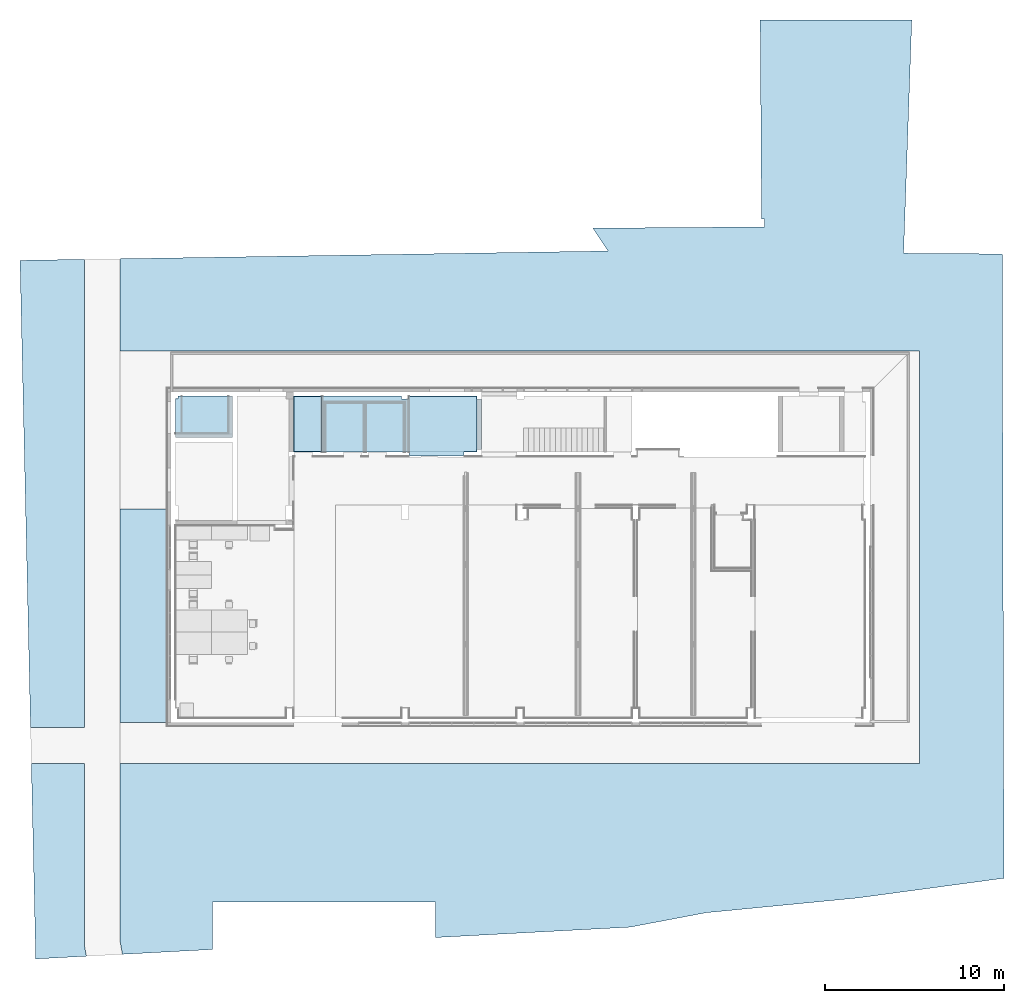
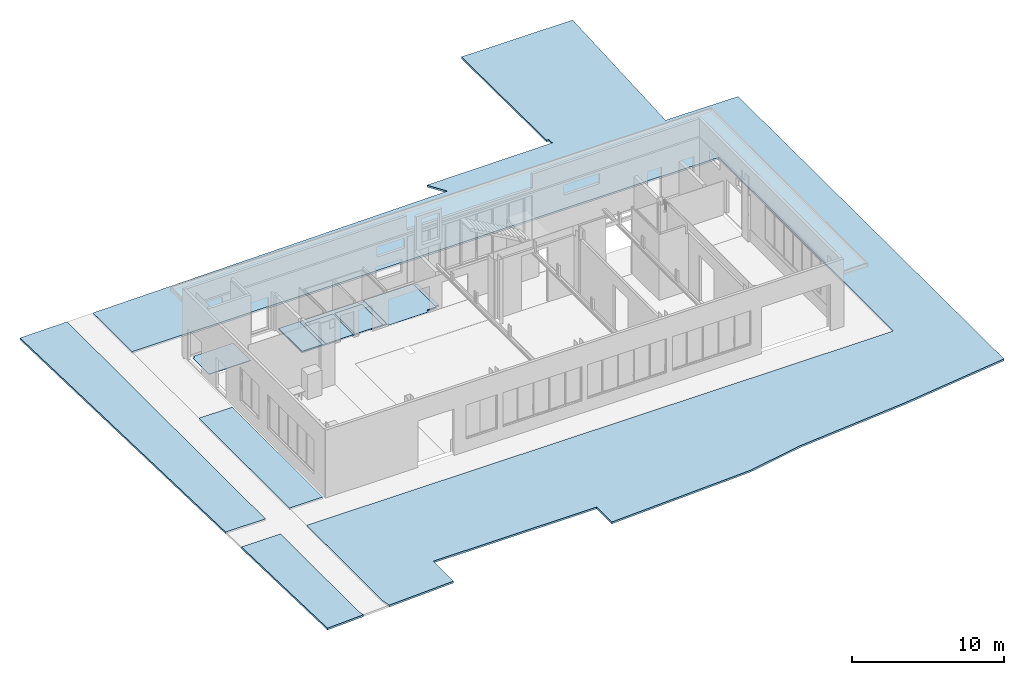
# One storey, part 8 of 27: 10 slabs.
"""IFC2X3 building model written with IfcOpenShell, lengths in centimetres."""

from ifc_helpers import new_model, entity, si_unit, converted_unit, derived_unit, direction, frame, frame_2d, origin, place, context, subcontext, project, spatial, polyline, rectangle, outline, extrude, material, layer, layer_set, layer_usage, type_object, element, save


model = new_model("IFC2X3")

# Units and contexts
model_context = context("Model", 3, precision=0.001, world=origin(), true_north=direction((6.12303176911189e-17, 1.0)))
body_context = subcontext(model_context, "Body", "Model", "MODEL_VIEW")
ifc_project = project(units=[si_unit("LENGTHUNIT", "METRE", prefix="CENTI"), si_unit("AREAUNIT", "SQUARE_METRE"), si_unit("VOLUMEUNIT", "CUBIC_METRE"), converted_unit("PLANEANGLEUNIT", "DEGREE", entity("IfcRatioMeasure", 0.0174532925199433), si_unit("PLANEANGLEUNIT", "RADIAN"), dimensions=[0, 0, 0, 0, 0, 0, 0]), si_unit("MASSUNIT", "GRAM", prefix="KILO"), derived_unit("MASSDENSITYUNIT", [(si_unit("MASSUNIT", "GRAM", prefix="KILO"), 1), (si_unit("LENGTHUNIT", "METRE"), -3)]), derived_unit("MOMENTOFINERTIAUNIT", [(si_unit("LENGTHUNIT", "METRE"), 4)]), si_unit("TIMEUNIT", "SECOND"), si_unit("FREQUENCYUNIT", "HERTZ"), si_unit("THERMODYNAMICTEMPERATUREUNIT", "DEGREE_CELSIUS"), derived_unit("THERMALTRANSMITTANCEUNIT", [(si_unit("MASSUNIT", "GRAM", prefix="KILO"), 1), (si_unit("THERMODYNAMICTEMPERATUREUNIT", "KELVIN"), -1), (si_unit("TIMEUNIT", "SECOND"), -3)]), derived_unit("VOLUMETRICFLOWRATEUNIT", [(si_unit("LENGTHUNIT", "METRE"), 3), (si_unit("TIMEUNIT", "SECOND"), -1)]), si_unit("ELECTRICCURRENTUNIT", "AMPERE"), si_unit("ELECTRICVOLTAGEUNIT", "VOLT"), si_unit("POWERUNIT", "WATT"), si_unit("FORCEUNIT", "NEWTON", prefix="KILO"), si_unit("ILLUMINANCEUNIT", "LUX"), si_unit("LUMINOUSFLUXUNIT", "LUMEN"), si_unit("LUMINOUSINTENSITYUNIT", "CANDELA"), derived_unit("USERDEFINED", [(si_unit("MASSUNIT", "GRAM", prefix="KILO"), -1), (si_unit("LENGTHUNIT", "METRE"), -2), (si_unit("TIMEUNIT", "SECOND"), 3), (si_unit("LUMINOUSFLUXUNIT", "LUMEN"), 1)]), derived_unit("LINEARVELOCITYUNIT", [(si_unit("LENGTHUNIT", "METRE"), 1), (si_unit("TIMEUNIT", "SECOND"), -1)]), si_unit("PRESSUREUNIT", "PASCAL"), derived_unit("USERDEFINED", [(si_unit("LENGTHUNIT", "METRE"), -2), (si_unit("MASSUNIT", "GRAM", prefix="KILO"), 1), (si_unit("TIMEUNIT", "SECOND"), -2)]), derived_unit("LINEARFORCEUNIT", [(si_unit("MASSUNIT", "GRAM", prefix="KILO"), 1), (si_unit("LENGTHUNIT", "METRE"), 1), (si_unit("TIMEUNIT", "SECOND"), -2), (si_unit("LENGTHUNIT", "METRE"), -1)]), derived_unit("PLANARFORCEUNIT", [(si_unit("MASSUNIT", "GRAM", prefix="KILO"), 1), (si_unit("LENGTHUNIT", "METRE"), 1), (si_unit("TIMEUNIT", "SECOND"), -2), (si_unit("LENGTHUNIT", "METRE"), -2)])], contexts=[model_context])

# Site, building, storey
site_placement = place(None, origin())
site = spatial("IfcSite", under=ifc_project, at=site_placement, Name="Default", CompositionType="ELEMENT")
building_placement = place(site_placement, origin())
building = spatial("IfcBuilding", under=site, at=building_placement, CompositionType="ELEMENT")
storey_placement = place(building_placement, origin())
storey = spatial("IfcBuildingStorey", under=building, at=storey_placement, Name="Poziom 0 A +/-0,00", CompositionType="ELEMENT", Elevation=3.38570427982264e-11)

# Slabs
ifc_material_1 = material(Name="Wylewka")
ifc_layer_1 = layer(ifc_material_1, 10.0)
ifc_layer_set_1 = layer_set([ifc_layer_1], Name="Strop:Wylewka betonowa gr. 10cm")
ifc_layer_usage_1 = layer_usage(ifc_layer_set_1, "AXIS3", "POSITIVE", 0.0)
slab_type_1 = type_object("IfcSlabType", Name="Strop:Wylewka betonowa gr. 10cm", PredefinedType="FLOOR", material=ifc_layer_set_1)
slab_1_placement = place(storey_placement, origin())
element("IfcSlab", 1, at=slab_1_placement, inside=storey, type_object=slab_type_1, material=ifc_layer_usage_1, Name="Strop:Wylewka betonowa gr. 10cm", ObjectType="Strop:Wylewka betonowa gr. 10cm", PredefinedType="FLOOR", context=body_context, shape_type="SweptSolid", body=[
    extrude(outline(polyline([(-205.499993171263, -726.250092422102), (106.500006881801, -726.250092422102), (106.500006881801, -121.2499926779), (91.5000068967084, -121.2499926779), (91.5000068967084, -81.2499747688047), (106.499986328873, -81.2499747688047), (106.499986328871, 301.250019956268), (91.5000068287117, 301.250019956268), (91.5000068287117, 326.250019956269), (-190.500013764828, 326.250019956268), (-190.500013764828, 301.250019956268), (-205.499993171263, 301.250019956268), (-205.499993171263, -726.250092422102)])), frame((-1523.0150141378, 1973.6274451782, 0.0), z_axis=(0.0, 0.0, -1.0), x_axis=(0.0, 1.0, 0.0)), (0.0, 0.0, 1.0), 10.0),
])
ifc_material_2 = material(Name="_Metal krata pomostowa")
ifc_layer_2 = layer(ifc_material_2, 3.0)
ifc_layer_set_2 = layer_set([ifc_layer_2], Name="Strop:Podłoga techniczna z płyt pomostowych 3 cm")
ifc_layer_usage_2 = layer_usage(ifc_layer_set_2, "AXIS3", "POSITIVE", 0.0)
slab_type_2 = type_object("IfcSlabType", Name="Strop:Podłoga techniczna z płyt pomostowych 3 cm", PredefinedType="FLOOR", material=ifc_layer_set_2)
slab_2_placement = place(storey_placement, origin())
element("IfcSlab", 2, at=slab_2_placement, inside=storey, type_object=slab_type_2, material=ifc_layer_usage_2, Name="Strop:Podłoga techniczna z płyt pomostowych 3 cm", ObjectType="Strop:Podłoga techniczna z płyt pomostowych 3 cm", PredefinedType="FLOOR", context=body_context, shape_type="SweptSolid", body=[
    extrude(outline(polyline([(-148.399993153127, -111.166664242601), (66.7000068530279, -111.166664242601), (66.700006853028, -96.1666678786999), (81.6999863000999, -96.1666678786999), (81.6999863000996, 207.3333321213), (-148.399993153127, 207.3333321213), (-148.399993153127, -111.166664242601)])), frame((-2798.09844101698, 1998.42744520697, 0.0), z_axis=(0.0, 0.0, -1.0), x_axis=(0.0, 1.0, 0.0)), (0.0, 0.0, 1.0), 3.0),
])
ifc_material_3 = material(Name="Gres jasny")
ifc_layer_3 = layer(ifc_material_3, 2.0)
ifc_layer_set_3 = layer_set([ifc_layer_3], Name="Strop:Gres na kleju gr. 2cm techniczne")
ifc_layer_usage_3 = layer_usage(ifc_layer_set_3, "AXIS3", "POSITIVE", 0.0)
slab_type_3 = type_object("IfcSlabType", Name="Strop:Gres na kleju gr. 2cm techniczne", PredefinedType="FLOOR")
slab_3_placement = place(storey_placement, frame((-2246.76511972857, 1768.12743150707, 0.0)))
element("IfcSlab", 3, at=slab_3_placement, inside=storey, type_object=slab_type_3, material=ifc_layer_usage_3, Name="Strop:Gres na kleju gr. 2cm techniczne", ObjectType="Strop:Gres na kleju gr. 2cm techniczne", PredefinedType="FLOOR", context=body_context, shape_type="SweptSolid", body=[
    extrude(rectangle(XDim=307.000000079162, YDim=154.999991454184, at=frame_2d((1521.25001302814, -12.4999890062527), x_axis=(0.0, -1.0))), frame((1598.75000875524, 168.500009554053, 2.0), z_axis=(0.0, 0.0, -1.0), x_axis=(-1.0, 0.0, 0.0)), (0.0, 0.0, 1.0), 2.0),
])
ifc_material_4 = material(Name="Gres")
ifc_layer_4 = layer(ifc_material_4, 2.0)
ifc_layer_set_4 = layer_set([ifc_layer_4], Name="Strop:Gres na kleju gr. 2cm")
ifc_layer_usage_4 = layer_usage(ifc_layer_set_4, "AXIS3", "POSITIVE", 0.0)
slab_type_4 = type_object("IfcSlabType", Name="Strop:Gres na kleju gr. 2cm", PredefinedType="FLOOR", material=ifc_layer_set_4)
slab_4_placement = place(storey_placement, origin())
element("IfcSlab", 4, at=slab_4_placement, inside=storey, type_object=slab_type_4, material=ifc_layer_usage_4, Name="Strop:Gres na kleju gr. 2cm", ObjectType="Strop:Gres na kleju gr. 2cm", PredefinedType="FLOOR", context=body_context, shape_type="SweptSolid", body=[
    extrude(rectangle(XDim=273.500000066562, YDim=210.000002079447, at=frame_2d((9.9475983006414e-14, -1.06581410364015e-13), x_axis=(1.0, 0.0))), frame((-1736.76511003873, 1904.87745204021, 2.0), z_axis=(0.0, 0.0, -1.0), x_axis=(0.0, 1.0, 0.0)), (0.0, 0.0, 1.0), 2.0),
])
ifc_material_5 = material(Name="Wykladzina winylowa (w plytkach) na kleju")
ifc_layer_5 = layer(ifc_material_5, 2.0)
ifc_layer_set_5 = layer_set([ifc_layer_5], Name="Strop:Wykladzina winylowa (w plytkach) na kleju gr.2cm 2")
ifc_layer_usage_5 = layer_usage(ifc_layer_set_5, "AXIS3", "POSITIVE", 0.0)
slab_type_5 = type_object("IfcSlabType", Name="Strop:Wykladzina winylowa (w plytkach) na kleju gr.2cm 2", PredefinedType="FLOOR", material=ifc_layer_set_5)
slab_5_placement = place(storey_placement, origin())
element("IfcSlab", 5, at=slab_5_placement, inside=storey, type_object=slab_type_5, material=ifc_layer_usage_5, Name="Strop:Wykladzina winylowa (w plytkach) na kleju gr.2cm 2", ObjectType="Strop:Wykladzina winylowa (w plytkach) na kleju gr.2cm 2", PredefinedType="FLOOR", context=body_context, shape_type="SweptSolid", body=[
    extrude(outline(polyline([(-119.0, -228.333257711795), (213.0, -228.333257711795), (213.0, 149.166628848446), (-94.0, 149.166628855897), (-94.0, 79.1666288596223), (-119.0, 79.1666288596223), (-119.0, -228.333257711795)])), frame((-1373.43173119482, 1864.62745203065, 2.0), z_axis=(0.0, 0.0, -1.0), x_axis=(0.0, 1.0, 0.0)), (0.0, 0.0, 1.0), 2.0),
])
ifc_material_6 = material(Name="Trawa")
ifc_layer_6 = layer(ifc_material_6, 15.0)
ifc_layer_set_6 = layer_set([ifc_layer_6], Name="Strop:Trawa")
ifc_layer_usage_6 = layer_usage(ifc_layer_set_6, "AXIS3", "POSITIVE", 0.0)
slab_type_6 = type_object("IfcSlabType", Name="Strop:Trawa", PredefinedType="FLOOR", material=ifc_layer_set_6)
slab_6_placement = place(storey_placement, origin())
element("IfcSlab", 6, at=slab_6_placement, inside=storey, type_object=slab_type_6, material=ifc_layer_usage_6, Name="Strop:Trawa", ObjectType="Strop:Trawa", PredefinedType="FLOOR", context=body_context, shape_type="SweptSolid", body=[
    extrude(outline(polyline([(-1309.44439955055, -166.293837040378), (1304.85974334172, -166.293837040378), (1311.67032436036, 136.879564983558), (-1307.08566815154, 195.708109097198), (-1309.44439955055, -166.293837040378)])), frame((-3582.65949955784, 1534.89280886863, -17.0), z_axis=(0.0, 0.0, 1.0), x_axis=(0.022458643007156, -0.999747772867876, 0.0)), (0.0, 0.0, 1.0), 15.0),
    extrude(outline(polyline([(-209.242330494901, -1936.96055900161), (2519.14378256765, -1936.96055900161), (2527.36432239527, -1421.44265302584), (-1944.06721108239, -1350.14041228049), (-1907.28407588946, 956.565083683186), (2564.14745740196, 885.262842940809), (2580.10977268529, 1886.27486106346), (2568.68353480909, 1953.52916668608), (2063.99964302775, 1934.61004500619), (2059.75801774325, 1668.61367726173), (813.499385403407, 1688.48673857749), (816.678493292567, 1887.85162690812), (-272.765532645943, 1847.01155966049), (-699.809101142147, 1773.08974310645), (-1548.83002044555, 1704.0355712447), (-2368.65513377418, 1606.76342020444), (-2414.54477421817, -1885.35494516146), (-1862.9912325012, -1898.04309701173), (-1929.55225420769, -3201.70510493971), (-1081.45043154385, -3215.22908711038), (-1071.28843774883, -2102.63949199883), (-1088.7595984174, -2103.26495102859), (-1088.22334000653, -2057.81705021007), (-127.110629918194, -2066.05693593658), (-209.242330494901, -1936.96055900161)])), frame((-668.05835538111, 952.662167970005, -17.0), z_axis=(0.0, 0.0, 1.0), x_axis=(-0.999872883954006, -0.015944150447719, 0.0)), (0.0, 0.0, 1.0), 15.0),
    extrude(rectangle(XDim=1194.99995276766, YDim=254.999999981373, at=frame_2d((1.13686837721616e-13, 4.33431068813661e-13), x_axis=(1.0, 0.0))), frame((-3090.26510473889, 852.627475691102, -17.0), z_axis=(0.0, 0.0, 1.0), x_axis=(0.0, 1.0, 0.0)), (0.0, 0.0, 1.0), 15.0),
    extrude(outline(polyline([(-453.891269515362, 39.8328687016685), (-416.813699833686, -241.973746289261), (663.319134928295, -65.6965594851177), (608.588801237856, 228.004568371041), (-401.202966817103, 39.8328687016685), (-453.891269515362, 39.8328687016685)])), frame((-3529.01265557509, -613.431073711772, -17.0), z_axis=(0.0, 0.0, -1.0), x_axis=(-0.183193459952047, 0.983076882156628, 0.0)), (0.0, 0.0, -1.0), 15.0),
])
ifc_layer_7 = layer(ifc_material_2, 4.0)
ifc_layer_set_7 = layer_set([ifc_layer_7], Name="Strop:Krata pomostowa techniczna")
ifc_layer_usage_7 = layer_usage(ifc_layer_set_7, "AXIS3", "POSITIVE", 0.0)
slab_type_7 = type_object("IfcSlabType", Name="Strop:Krata pomostowa techniczna", PredefinedType="FLOOR", material=ifc_layer_set_7)
slab_7_placement = place(storey_placement, origin())
element("IfcSlab", 7, at=slab_7_placement, inside=storey, type_object=slab_type_7, material=ifc_layer_usage_7, Name="Strop:Krata pomostowa techniczna", ObjectType="Strop:Krata pomostowa techniczna", PredefinedType="FLOOR", context=body_context, shape_type="SweptSolid", body=[
    extrude(outline(polyline([(-148.666666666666, -110.833334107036), (67.3333333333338, -110.833334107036), (67.3333333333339, -96.3333317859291), (81.3333333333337, -96.3333317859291), (81.3333333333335, 207.166665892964), (-148.666666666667, 207.166665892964), (-148.666666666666, -110.833334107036)])), frame((-2797.93177478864, 1998.79409817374, 2.0), z_axis=(0.0, 0.0, -1.0), x_axis=(0.0, 1.0, 0.0)), (0.0, 0.0, 1.0), 4.0),
])
ifc_layer_usage_8 = layer_usage(ifc_layer_set_3, "AXIS3", "POSITIVE", 0.0)
slab_type_8 = type_object("IfcSlabType", Name="Strop:Gres na kleju gr. 2cm techniczne", PredefinedType="FLOOR", material=ifc_layer_set_3)
slab_8_placement = place(storey_placement, origin())
element("IfcSlab", 8, at=slab_8_placement, inside=storey, type_object=slab_type_8, material=ifc_layer_usage_8, Name="Strop:Gres na kleju gr. 2cm techniczne", ObjectType="Strop:Gres na kleju gr. 2cm techniczne", PredefinedType="FLOOR", context=body_context, shape_type="SweptSolid", body=[
    extrude(rectangle(XDim=307.000000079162, YDim=154.999991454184, at=frame_2d((0.0, -2.20268248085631e-13), x_axis=(1.0, 0.0))), frame((-2169.26512400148, 1924.12745205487, 2.0), z_axis=(0.0, 0.0, -1.0), x_axis=(0.0, 1.0, 0.0)), (0.0, 0.0, 1.0), 2.0),
])
ifc_layer_usage_9 = layer_usage(ifc_layer_set_4, "AXIS3", "POSITIVE", 0.0)
slab_type_9 = type_object("IfcSlabType", Name="Strop:Gres na kleju gr. 2cm", PredefinedType="FLOOR", material=ifc_layer_set_4)
slab_9_placement = place(storey_placement, origin())
element("IfcSlab", 9, at=slab_9_placement, inside=storey, type_object=slab_type_9, material=ifc_layer_usage_9, Name="Strop:Gres na kleju gr. 2cm", ObjectType="Strop:Gres na kleju gr. 2cm", PredefinedType="FLOOR", context=body_context, shape_type="SweptSolid", body=[
    extrude(rectangle(XDim=273.500000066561, YDim=210.000017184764, at=frame_2d((1.13686837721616e-13, 1.06581410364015e-13), x_axis=(1.0, 0.0))), frame((-1961.76511967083, 1904.87745204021, 2.0), z_axis=(0.0, 0.0, -1.0), x_axis=(0.0, 1.0, 0.0)), (0.0, 0.0, 1.0), 2.0),
])
ifc_layer_usage_10 = layer_usage(ifc_layer_set_1, "AXIS3", "POSITIVE", 0.0)
slab_type_10 = type_object("IfcSlabType", Name="Strop:Wylewka betonowa gr. 10cm", PredefinedType="FLOOR", material=ifc_layer_set_1)
slab_10_placement = place(storey_placement, origin())
element("IfcSlab", 10, at=slab_10_placement, inside=storey, type_object=slab_type_10, material=ifc_layer_usage_10, Name="Strop:Wylewka betonowa gr. 10cm", ObjectType="Strop:Wylewka betonowa gr. 10cm", PredefinedType="FLOOR", context=body_context, shape_type="SweptSolid", body=[
    extrude(outline(polyline([(-230.249994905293, -569.375082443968), (81.7500051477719, -569.375082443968), (81.7500051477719, 35.6250173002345), (66.750005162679, 35.6250173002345), (66.750005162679, 75.62503520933), (81.7499845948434, 75.62503520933), (81.749984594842, 458.125029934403), (-230.249994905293, 458.125029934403), (-230.249994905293, -569.375082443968)])), frame((-1679.89002411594, 1998.37744691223, 0.0), z_axis=(0.0, 0.0, -1.0), x_axis=(0.0, 1.0, 0.0)), (0.0, 0.0, 1.0), 10.0),
])

save(model, "model.ifc")
